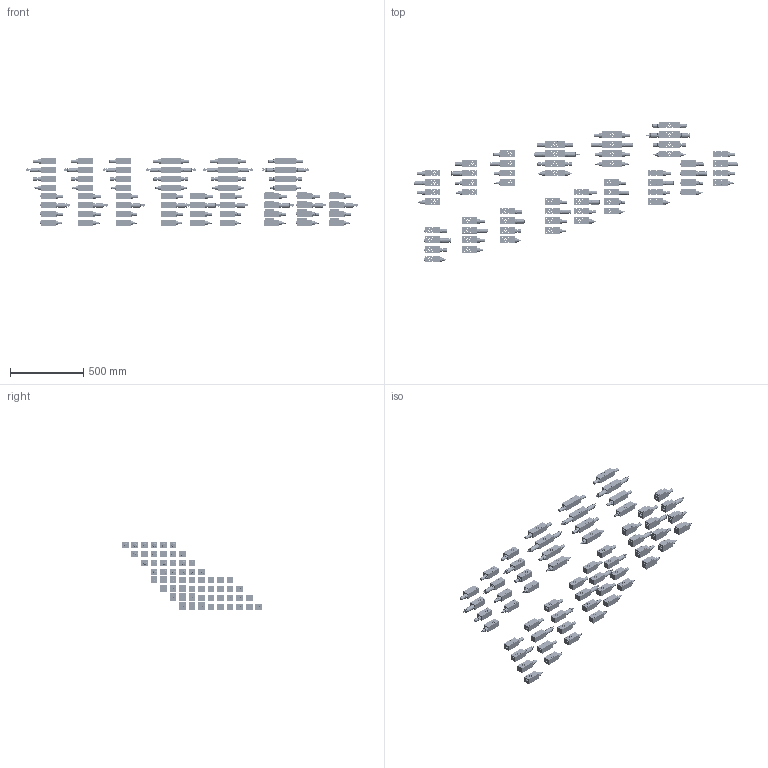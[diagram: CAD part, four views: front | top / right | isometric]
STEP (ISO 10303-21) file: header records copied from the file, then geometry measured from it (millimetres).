
FILE_DESCRIPTION(('Bauteilbeschreibung','HiCAD-Model','HiCAD-STEP-TRANSLATION','Bauteilbeschreibung'),'2;1');
FILE_NAME('C:/_EIGENE_DATEN/DXF_STEP/B_A06_3808.STP','2008-09-18T13:20:51+00:00',('Konstrukteur'),('Konstrukteur Firma GmbH'),' HiCAD neXt 2007, Step 3.1.1212.3C ','HiCAD neXt 2007','confidential');
FILE_SCHEMA(('AUTOMOTIVE_DESIGN { 1 2 10303 214 0 1 1 1 }'));
Products named in the file (709): B_A06_3808; BASSA06_P; A42BD906; E60B103C; E60B103C0; DIN_76; DIN_ISO_228_1; F5336245; A95604B6; SICHERUNGSSCHEIBE; SECHSKANTMUTTER; A73D00DA; AE072963; AE0729630; DIN0ISO022801; BADSA06_P; EE439140; E60B103C1; E60B103C2; DIN076; DIN0ISO0228010; AE0729631; AE0729632; DIN0ISO0228011; AB3010B1; A73D00DA0; A210EF9C; BAKSA06_P; AB1C04D6; E60B103C3; E60B103C4; DIN0760; DIN0ISO0228012; AE0729633; AE0729634; DIN0ISO0228013; AA0FBBA6; A73D00DA1; CDB95981; BAASA06_P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
Assembly tree (708 placements, depth 6):
  B_A06_3808
    BASSA06_P
      A42BD906
        E60B103C
        E60B103C0
          DIN_76
          DIN_ISO_228_1
        F5336245
          A95604B6
            SICHERUNGSSCHEIBE
            SECHSKANTMUTTER
          A73D00DA
        AE072963
        AE0729630
          DIN0ISO022801
    BADSA06_P
      EE439140
        E60B103C1
        E60B103C2
          DIN076
          DIN0ISO0228010
        AE0729631
        AE0729632
          DIN0ISO0228011
        AB3010B1
          A73D00DA0
          A210EF9C
    BAKSA06_P
      AB1C04D6
        E60B103C3
        E60B103C4
          DIN0760
          DIN0ISO0228012
        AE0729633
        AE0729634
          DIN0ISO0228013
        AA0FBBA6
          A73D00DA1
          CDB95981
    BAASA06_P
      CA29364F
        E60B103C5
        E60B103C6
          DIN0761
          DIN0ISO0228014
        AE0729635
        AE0729636
          DIN0ISO0228015
        A915DE08
          A73D00DA2
          A95604B60
            SICHERUNGSSCHEIBE0
            SECHSKANTMUTTER0
          C457CC2F
    BKSSA06_P
      ABD93442
        E60B103C7
        E60B103C8
          DIN0762
          DIN0ISO0228016
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Bounding box: 2261.5 x 955 x 460 mm (x, y, z)
Volume: 13189656.5 mm3; surface area: 3040996 mm2
Topology: 402 solids, 402 shells, 11574 faces, 27033 edges, 17727 vertices
Faces by surface type: plane 4482, cylinder 4368, cone 2154, torus 570
Full cylindrical faces by diameter (mm): 3 x594, 4 x54, 5 x90, 5.5 x288, 5.93 x144, 6 x18, 7.5 x240, 8 x144, 8.5 x18, 11 x48, 11.2 x24, 11.445 x48, 11.6 x48, 12.5 x288, 13.157 x72, 14.6 x72, 15.5 x96, 16.8 x24, 17 x108, 17.5 x234, 18 x24, 20 x48, 20.3 x72, 20.5 x144, 21 x18, 22 x210, 23 x18, 24 x24, 30 x108, 34 x72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
Entity records: 574489 total; most frequent: CARTESIAN_POINT 330082, DIRECTION 51156, ORIENTED_EDGE 37260, AXIS2_PLACEMENT_3D 22944, EDGE_LOOP 20160, EDGE_CURVE 18630, VERTEX_POINT 15126, ADVANCED_FACE 11574
